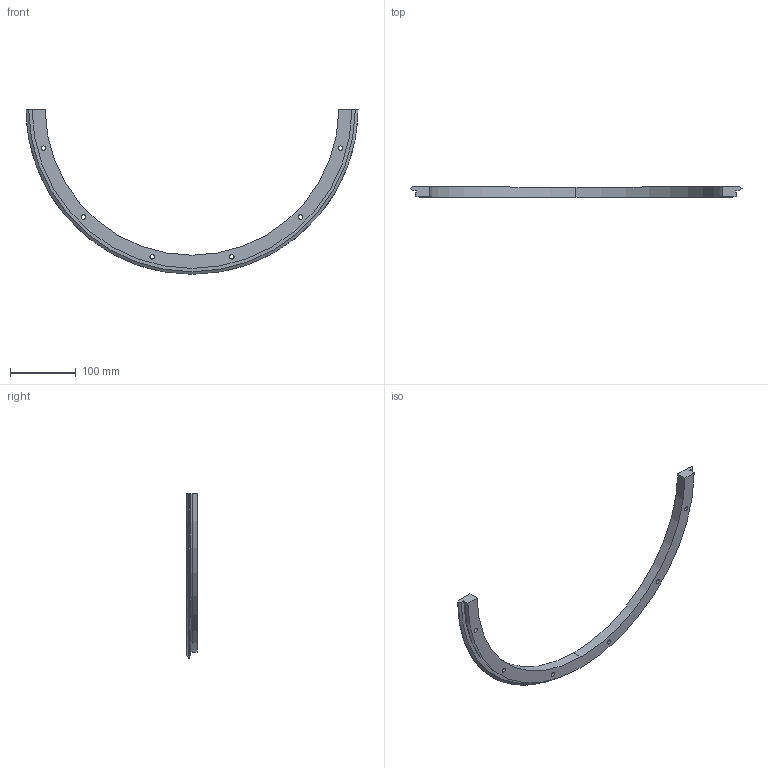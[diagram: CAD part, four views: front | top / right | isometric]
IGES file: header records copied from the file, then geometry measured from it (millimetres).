
Start section: 3D InterOp IGES (v. 2020 1.0.1), Spatial Corp. Copyright (c) 1999-2017.
Global section: file name: rem_505_r180.igs; native system: Spatial Corp.; preprocessor: 3D InterOp ACIS/IGES; author: TraceParts; organization: TraceParts S.A.; date: 20220624.101627; units: millimetre
Bounding box: 505.7 x 15.5 x 250.86 mm (x, y, z)
Surface area: 66713.8 mm2 (no closed solid volume)
Topology: 0 solids, 0 shells, 50 faces, 246 edges, 246 vertices
Faces by surface type: revolution 38, extrusion 12
